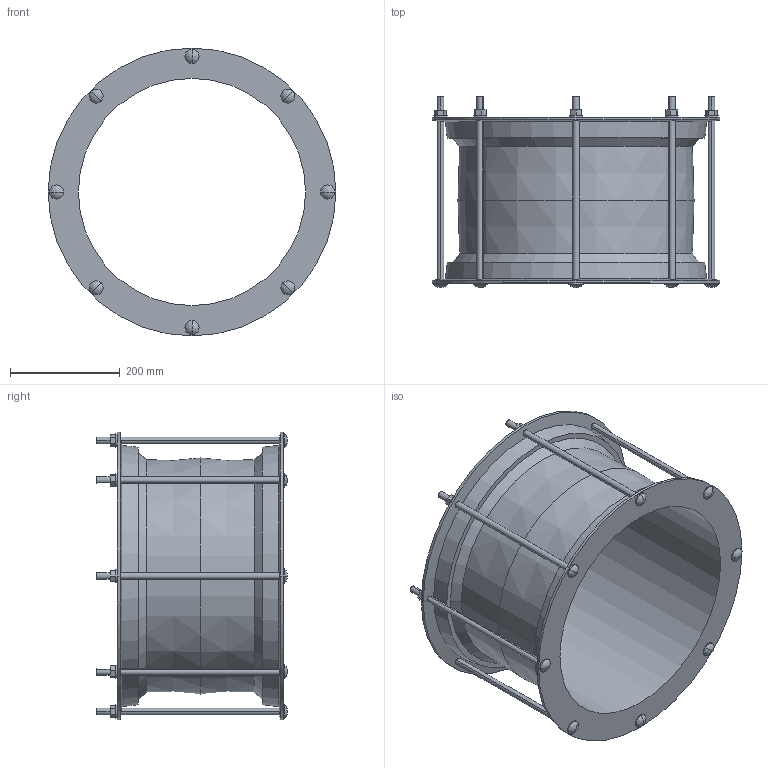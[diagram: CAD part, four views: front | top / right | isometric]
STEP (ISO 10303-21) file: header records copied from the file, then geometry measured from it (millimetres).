
FILE_DESCRIPTION((''),'2;1');
FILE_NAME('MAXIFIT_394_411','2018-12-18T',('mfairey'),('Glynwed Pipe Systems'),'CREO PARAMETRIC BY PTC INC, 2016130','CREO PARAMETRIC BY PTC INC, 2016130','');
FILE_SCHEMA(('CONFIG_CONTROL_DESIGN'));
Length unit declared in the file: millimetre
Products named in the file (1): MAXIFIT_394_411
Bounding box: 523.5 x 348 x 523.5 mm (x, y, z)
Volume: 6141941.3 mm3; surface area: 1182259 mm2
Topology: 1 solids, 1 shells, 178 faces, 432 edges, 270 vertices
Faces by surface type: plane 76, cylinder 70, cone 16, bspline 16
Entity records: 6298 total; most frequent: CARTESIAN_POINT 2146, DIRECTION 842, ORIENTED_EDGE 832, EDGE_CURVE 416, AXIS2_PLACEMENT_3D 304, VERTEX_POINT 270, VECTOR 234, LINE 234
